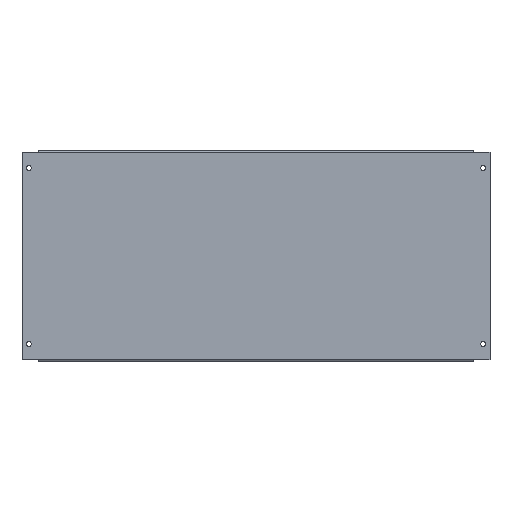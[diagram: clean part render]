
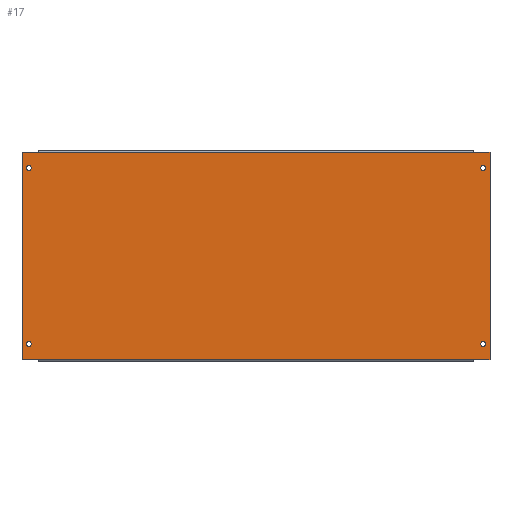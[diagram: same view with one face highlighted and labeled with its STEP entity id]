
A CAD part, top view. The second image highlights one B-rep face of the part: STEP entity #17.
In plain terms, the highlighted planar face has unit normal (0, 0, 1).
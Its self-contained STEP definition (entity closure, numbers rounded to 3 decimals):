
#17 = ADVANCED_FACE ( 'NONE', ( #294, #284, #350, #316, #320 ), #678, .T. ) ;
#20 = EDGE_CURVE ( 'NONE', #592, #593, #142, .T. ) ;
#38 = EDGE_CURVE ( 'NONE', #590, #589, #51, .T. ) ;
#40 = EDGE_CURVE ( 'NONE', #598, #597, #44, .T. ) ;
#44 = CIRCLE ( 'NONE', #317, 3.5 ) ;
#51 = CIRCLE ( 'NONE', #343, 3.5 ) ;
#64 = CIRCLE ( 'NONE', #219, 3.5 ) ;
#89 = CIRCLE ( 'NONE', #190, 3.5 ) ;
#109 = EDGE_CURVE ( 'NONE', #593, #592, #64, .T. ) ;
#110 = EDGE_CURVE ( 'NONE', #597, #598, #143, .T. ) ;
#111 = EDGE_CURVE ( 'NONE', #602, #601, #121, .T. ) ;
#112 = EDGE_CURVE ( 'NONE', #604, #605, #874, .T. ) ;
#118 = EDGE_CURVE ( 'NONE', #589, #590, #89, .T. ) ;
#120 = EDGE_CURVE ( 'NONE', #607, #608, #896, .T. ) ;
#121 = CIRCLE ( 'NONE', #236, 3.5 ) ;
#123 = EDGE_CURVE ( 'NONE', #601, #602, #132, .T. ) ;
#131 = EDGE_CURVE ( 'NONE', #605, #606, #918, .T. ) ;
#132 = CIRCLE ( 'NONE', #189, 3.5 ) ;
#137 = EDGE_CURVE ( 'NONE', #608, #609, #926, .T. ) ;
#142 = CIRCLE ( 'NONE', #347, 3.5 ) ;
#143 = CIRCLE ( 'NONE', #228, 3.5 ) ;
#145 = EDGE_CURVE ( 'NONE', #610, #603, #937, .T. ) ;
#146 = EDGE_CURVE ( 'NONE', #606, #607, #940, .T. ) ;
#149 = EDGE_CURVE ( 'NONE', #609, #610, #946, .T. ) ;
#152 = EDGE_CURVE ( 'NONE', #603, #604, #952, .T. ) ;
#189 = AXIS2_PLACEMENT_3D ( 'NONE', #901, #902, #903 ) ;
#190 = AXIS2_PLACEMENT_3D ( 'NONE', #886, #893, #894 ) ;
#215 = VECTOR ( 'NONE', #876, 1000. ) ;
#219 = AXIS2_PLACEMENT_3D ( 'NONE', #864, #865, #866 ) ;
#223 = VECTOR ( 'NONE', #954, 1000. ) ;
#226 = VECTOR ( 'NONE', #948, 1000. ) ;
#228 = AXIS2_PLACEMENT_3D ( 'NONE', #867, #868, #869 ) ;
#231 = VECTOR ( 'NONE', #942, 1000. ) ;
#234 = VECTOR ( 'NONE', #939, 1000. ) ;
#236 = AXIS2_PLACEMENT_3D ( 'NONE', #870, #871, #872 ) ;
#240 = VECTOR ( 'NONE', #928, 1000. ) ;
#245 = VECTOR ( 'NONE', #920, 1000. ) ;
#258 = VECTOR ( 'NONE', #898, 1000. ) ;
#284 = FACE_BOUND ( 'NONE', #549, .T. ) ;
#285 = AXIS2_PLACEMENT_3D ( 'NONE', #679, #680, #681 ) ;
#294 = FACE_BOUND ( 'NONE', #550, .T. ) ;
#316 = FACE_OUTER_BOUND ( 'NONE', #560, .T. ) ;
#317 = AXIS2_PLACEMENT_3D ( 'NONE', #720, #721, #722 ) ;
#320 = FACE_BOUND ( 'NONE', #561, .T. ) ;
#343 = AXIS2_PLACEMENT_3D ( 'NONE', #714, #715, #716 ) ;
#347 = AXIS2_PLACEMENT_3D ( 'NONE', #688, #689, #690 ) ;
#350 = FACE_BOUND ( 'NONE', #562, .T. ) ;
#512 = ORIENTED_EDGE ( 'NONE', *, *, #38, .T. ) ;
#513 = ORIENTED_EDGE ( 'NONE', *, *, #118, .T. ) ;
#515 = ORIENTED_EDGE ( 'NONE', *, *, #145, .T. ) ;
#516 = ORIENTED_EDGE ( 'NONE', *, *, #149, .T. ) ;
#517 = ORIENTED_EDGE ( 'NONE', *, *, #137, .T. ) ;
#518 = ORIENTED_EDGE ( 'NONE', *, *, #120, .T. ) ;
#519 = ORIENTED_EDGE ( 'NONE', *, *, #146, .T. ) ;
#520 = ORIENTED_EDGE ( 'NONE', *, *, #112, .T. ) ;
#521 = ORIENTED_EDGE ( 'NONE', *, *, #131, .T. ) ;
#522 = ORIENTED_EDGE ( 'NONE', *, *, #123, .F. ) ;
#523 = ORIENTED_EDGE ( 'NONE', *, *, #111, .F. ) ;
#524 = ORIENTED_EDGE ( 'NONE', *, *, #110, .T. ) ;
#525 = ORIENTED_EDGE ( 'NONE', *, *, #20, .F. ) ;
#526 = ORIENTED_EDGE ( 'NONE', *, *, #152, .T. ) ;
#527 = ORIENTED_EDGE ( 'NONE', *, *, #40, .T. ) ;
#528 = ORIENTED_EDGE ( 'NONE', *, *, #109, .F. ) ;
#549 = EDGE_LOOP ( 'NONE', ( #527, #524 ) ) ;
#550 = EDGE_LOOP ( 'NONE', ( #528, #525 ) ) ;
#560 = EDGE_LOOP ( 'NONE', ( #526, #520, #521, #519, #518, #517, #516, #515 ) ) ;
#561 = EDGE_LOOP ( 'NONE', ( #512, #513 ) ) ;
#562 = EDGE_LOOP ( 'NONE', ( #523, #522 ) ) ;
#589 = VERTEX_POINT ( 'NONE', #971 ) ;
#590 = VERTEX_POINT ( 'NONE', #972 ) ;
#592 = VERTEX_POINT ( 'NONE', #974 ) ;
#593 = VERTEX_POINT ( 'NONE', #975 ) ;
#597 = VERTEX_POINT ( 'NONE', #979 ) ;
#598 = VERTEX_POINT ( 'NONE', #980 ) ;
#601 = VERTEX_POINT ( 'NONE', #983 ) ;
#602 = VERTEX_POINT ( 'NONE', #984 ) ;
#603 = VERTEX_POINT ( 'NONE', #985 ) ;
#604 = VERTEX_POINT ( 'NONE', #986 ) ;
#605 = VERTEX_POINT ( 'NONE', #987 ) ;
#606 = VERTEX_POINT ( 'NONE', #988 ) ;
#607 = VERTEX_POINT ( 'NONE', #989 ) ;
#608 = VERTEX_POINT ( 'NONE', #990 ) ;
#609 = VERTEX_POINT ( 'NONE', #991 ) ;
#610 = VERTEX_POINT ( 'NONE', #992 ) ;
#678 = PLANE ( 'NONE',  #285 ) ;
#679 = CARTESIAN_POINT ( 'NONE',  ( -332.5, -149.5, 1.2 ) ) ;
#680 = DIRECTION ( 'NONE',  ( 0., 0., 1. ) ) ;
#681 = DIRECTION ( 'NONE',  ( 1., 0., 0. ) ) ;
#688 = CARTESIAN_POINT ( 'NONE',  ( 322.75, -125., 1.2 ) ) ;
#689 = DIRECTION ( 'NONE',  ( 0., 0., 1. ) ) ;
#690 = DIRECTION ( 'NONE',  ( 1., 0., 0. ) ) ;
#714 = CARTESIAN_POINT ( 'NONE',  ( -322.75, -125., 1.2 ) ) ;
#715 = DIRECTION ( 'NONE',  ( 0., 0., -1. ) ) ;
#716 = DIRECTION ( 'NONE',  ( 1., 0., 0. ) ) ;
#720 = CARTESIAN_POINT ( 'NONE',  ( 322.75, 125., 1.2 ) ) ;
#721 = DIRECTION ( 'NONE',  ( 0., 0., -1. ) ) ;
#722 = DIRECTION ( 'NONE',  ( 1., 0., 0. ) ) ;
#864 = CARTESIAN_POINT ( 'NONE',  ( 322.75, -125., 1.2 ) ) ;
#865 = DIRECTION ( 'NONE',  ( 0., 0., 1. ) ) ;
#866 = DIRECTION ( 'NONE',  ( 1., 0., 0. ) ) ;
#867 = CARTESIAN_POINT ( 'NONE',  ( 322.75, 125., 1.2 ) ) ;
#868 = DIRECTION ( 'NONE',  ( 0., 0., -1. ) ) ;
#869 = DIRECTION ( 'NONE',  ( 1., 0., 0. ) ) ;
#870 = CARTESIAN_POINT ( 'NONE',  ( -322.75, 125., 1.2 ) ) ;
#871 = DIRECTION ( 'NONE',  ( 0., 0., 1. ) ) ;
#872 = DIRECTION ( 'NONE',  ( 1., 0., 0. ) ) ;
#874 = LINE ( 'NONE', #875, #215 ) ;
#875 = CARTESIAN_POINT ( 'NONE',  ( -332.5, -147.1, 1.2 ) ) ;
#876 = DIRECTION ( 'NONE',  ( 1., 0., 0. ) ) ;
#886 = CARTESIAN_POINT ( 'NONE',  ( -322.75, -125., 1.2 ) ) ;
#893 = DIRECTION ( 'NONE',  ( 0., 0., -1. ) ) ;
#894 = DIRECTION ( 'NONE',  ( 1., 0., 0. ) ) ;
#896 = LINE ( 'NONE', #897, #258 ) ;
#897 = CARTESIAN_POINT ( 'NONE',  ( 332.5, 149.5, 1.2 ) ) ;
#898 = DIRECTION ( 'NONE',  ( 0., 1., 0. ) ) ;
#901 = CARTESIAN_POINT ( 'NONE',  ( -322.75, 125., 1.2 ) ) ;
#902 = DIRECTION ( 'NONE',  ( 0., 0., 1. ) ) ;
#903 = DIRECTION ( 'NONE',  ( 1., 0., 0. ) ) ;
#918 = LINE ( 'NONE', #919, #245 ) ;
#919 = CARTESIAN_POINT ( 'NONE',  ( -309.5, -147.1, 1.2 ) ) ;
#920 = DIRECTION ( 'NONE',  ( 1., 0., 0. ) ) ;
#926 = LINE ( 'NONE', #927, #240 ) ;
#927 = CARTESIAN_POINT ( 'NONE',  ( -332.5, 147.1, 1.2 ) ) ;
#928 = DIRECTION ( 'NONE',  ( -1., 0., 0. ) ) ;
#937 = LINE ( 'NONE', #938, #234 ) ;
#938 = CARTESIAN_POINT ( 'NONE',  ( -332.5, 147.1, 1.2 ) ) ;
#939 = DIRECTION ( 'NONE',  ( -1., 0., 0. ) ) ;
#940 = LINE ( 'NONE', #941, #231 ) ;
#941 = CARTESIAN_POINT ( 'NONE',  ( -332.5, -147.1, 1.2 ) ) ;
#942 = DIRECTION ( 'NONE',  ( 1., 0., 0. ) ) ;
#946 = LINE ( 'NONE', #947, #226 ) ;
#947 = CARTESIAN_POINT ( 'NONE',  ( 309.5, 147.1, 1.2 ) ) ;
#948 = DIRECTION ( 'NONE',  ( -1., 0., 0. ) ) ;
#952 = LINE ( 'NONE', #953, #223 ) ;
#953 = CARTESIAN_POINT ( 'NONE',  ( -332.5, 149.5, 1.2 ) ) ;
#954 = DIRECTION ( 'NONE',  ( 0., -1., 0. ) ) ;
#971 = CARTESIAN_POINT ( 'NONE',  ( -326.25, -125., 1.2 ) ) ;
#972 = CARTESIAN_POINT ( 'NONE',  ( -319.25, -125., 1.2 ) ) ;
#974 = CARTESIAN_POINT ( 'NONE',  ( 319.25, -125., 1.2 ) ) ;
#975 = CARTESIAN_POINT ( 'NONE',  ( 326.25, -125., 1.2 ) ) ;
#979 = CARTESIAN_POINT ( 'NONE',  ( 319.25, 125., 1.2 ) ) ;
#980 = CARTESIAN_POINT ( 'NONE',  ( 326.25, 125., 1.2 ) ) ;
#983 = CARTESIAN_POINT ( 'NONE',  ( -326.25, 125., 1.2 ) ) ;
#984 = CARTESIAN_POINT ( 'NONE',  ( -319.25, 125., 1.2 ) ) ;
#985 = CARTESIAN_POINT ( 'NONE',  ( -332.5, 147.1, 1.2 ) ) ;
#986 = CARTESIAN_POINT ( 'NONE',  ( -332.5, -147.1, 1.2 ) ) ;
#987 = CARTESIAN_POINT ( 'NONE',  ( -309.5, -147.1, 1.2 ) ) ;
#988 = CARTESIAN_POINT ( 'NONE',  ( 309.5, -147.1, 1.2 ) ) ;
#989 = CARTESIAN_POINT ( 'NONE',  ( 332.5, -147.1, 1.2 ) ) ;
#990 = CARTESIAN_POINT ( 'NONE',  ( 332.5, 147.1, 1.2 ) ) ;
#991 = CARTESIAN_POINT ( 'NONE',  ( 309.5, 147.1, 1.2 ) ) ;
#992 = CARTESIAN_POINT ( 'NONE',  ( -309.5, 147.1, 1.2 ) ) ;
